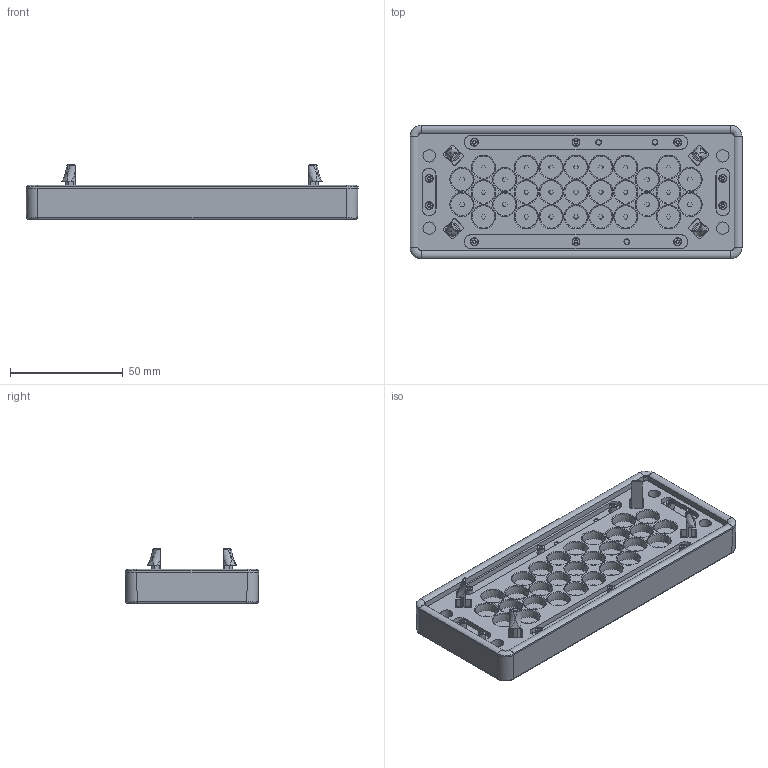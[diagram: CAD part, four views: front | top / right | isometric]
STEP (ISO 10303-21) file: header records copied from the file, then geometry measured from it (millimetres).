
FILE_DESCRIPTION(/* description */ (''),/* implementation_level */ '2;1');
FILE_NAME(/* name */ 'KDP-N_24-29.stp',/* time_stamp */ '2025-01-14T16:41:18+08:00',/* author */ (''),/* organization */ (''),/* preprocessor_version */ 'ST-DEVELOPER v16.7',/* originating_system */ 'SIEMENS PLM Software NX 12.0',/* authorisation */ '');
FILE_SCHEMA (('AP203_CONFIGURATION_CONTROLLED_3D_DESIGN_OF_MECHANICAL_PARTS_AND_ASSEMBLIES_MIM_LF { 1 0 10303 403 2 1 2}'));
Products named in the file (1): Admi3A48943A2c29
Bounding box: 147 x 59 x 24 mm (x, y, z)
Volume: 70381.3 mm3; surface area: 59581.7 mm2
Topology: 2 solids, 14 shells, 1644 faces, 4284 edges, 2792 vertices
Faces by surface type: plane 632, cylinder 255, extrusion 236, bspline 216, cone 184, torus 121
Full cylindrical faces by diameter (mm): 2.5 x6, 3.5 x20, 5.5 x8, 7.5 x29, 9 x4
Entity records: 67015 total; most frequent: CARTESIAN_POINT 21711, ORIENTED_EDGE 7740, DIRECTION 6062, EDGE_CURVE 3870, VERTEX_POINT 2646, AXIS2_PLACEMENT_3D 2289, EDGE_LOOP 2226, B_SPLINE_CURVE_WITH_KNOTS 1746
